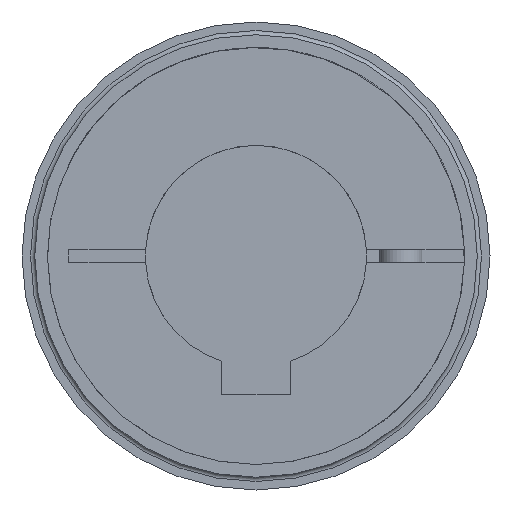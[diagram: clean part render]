
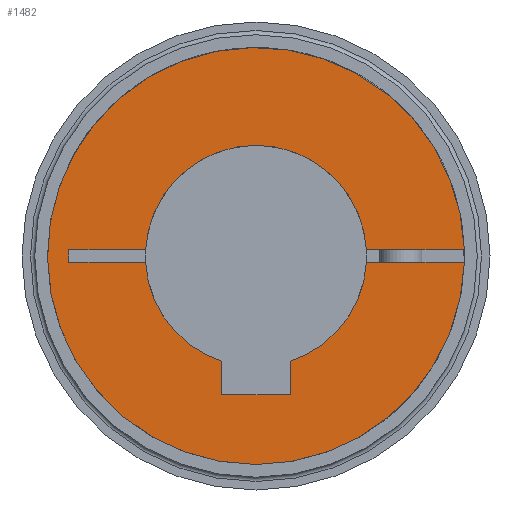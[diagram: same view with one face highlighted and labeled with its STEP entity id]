
A CAD part, left-side view. The second image highlights one B-rep face of the part: STEP entity #1482.
In plain terms, the highlighted planar face has unit normal (-1, 0, 0).
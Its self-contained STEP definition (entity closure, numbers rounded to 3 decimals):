
#24=PLANE('',#1695);
#141=LINE('',#2678,#244);
#144=LINE('',#2684,#247);
#145=LINE('',#2686,#248);
#156=LINE('',#2707,#259);
#157=LINE('',#2709,#260);
#158=LINE('',#2711,#261);
#159=LINE('',#2713,#262);
#160=LINE('',#2714,#263);
#244=VECTOR('',#2053,1.);
#247=VECTOR('',#2058,1.);
#248=VECTOR('',#2061,1.);
#259=VECTOR('',#2084,1.);
#260=VECTOR('',#2087,1.);
#261=VECTOR('',#2088,1.);
#262=VECTOR('',#2089,1.);
#263=VECTOR('',#2090,1.);
#375=FACE_OUTER_BOUND('',#470,.T.);
#470=EDGE_LOOP('',(#1224,#1225,#1226,#1227,#1228,#1229,#1230,#1231,#1232,
#1233,#1234,#1235,#1236));
#604=CIRCLE('',#1630,24.5);
#607=CIRCLE('',#1633,24.5);
#638=CIRCLE('',#1679,13.);
#641=CIRCLE('',#1683,13.);
#643=CIRCLE('',#1685,13.);
#697=VERTEX_POINT('',#2374);
#698=VERTEX_POINT('',#2376);
#703=VERTEX_POINT('',#2386);
#744=VERTEX_POINT('',#2648);
#745=VERTEX_POINT('',#2649);
#750=VERTEX_POINT('',#2660);
#751=VERTEX_POINT('',#2662);
#754=VERTEX_POINT('',#2668);
#755=VERTEX_POINT('',#2670);
#757=VERTEX_POINT('',#2676);
#759=VERTEX_POINT('',#2682);
#764=VERTEX_POINT('',#2710);
#765=VERTEX_POINT('',#2712);
#862=EDGE_CURVE('',#697,#698,#604,.T.);
#868=EDGE_CURVE('',#703,#697,#607,.T.);
#921=EDGE_CURVE('',#744,#745,#638,.T.);
#927=EDGE_CURVE('',#751,#750,#641,.T.);
#931=EDGE_CURVE('',#755,#754,#643,.T.);
#935=EDGE_CURVE('',#754,#757,#141,.T.);
#938=EDGE_CURVE('',#757,#759,#144,.T.);
#939=EDGE_CURVE('',#759,#751,#145,.T.);
#950=EDGE_CURVE('',#745,#698,#156,.T.);
#951=EDGE_CURVE('',#703,#755,#157,.T.);
#952=EDGE_CURVE('',#750,#764,#158,.T.);
#953=EDGE_CURVE('',#764,#765,#159,.T.);
#954=EDGE_CURVE('',#765,#744,#160,.T.);
#1224=ORIENTED_EDGE('',*,*,#921,.T.);
#1225=ORIENTED_EDGE('',*,*,#950,.T.);
#1226=ORIENTED_EDGE('',*,*,#862,.F.);
#1227=ORIENTED_EDGE('',*,*,#868,.F.);
#1228=ORIENTED_EDGE('',*,*,#951,.T.);
#1229=ORIENTED_EDGE('',*,*,#931,.T.);
#1230=ORIENTED_EDGE('',*,*,#935,.T.);
#1231=ORIENTED_EDGE('',*,*,#938,.T.);
#1232=ORIENTED_EDGE('',*,*,#939,.T.);
#1233=ORIENTED_EDGE('',*,*,#927,.T.);
#1234=ORIENTED_EDGE('',*,*,#952,.T.);
#1235=ORIENTED_EDGE('',*,*,#953,.T.);
#1236=ORIENTED_EDGE('',*,*,#954,.T.);
#1482=ADVANCED_FACE('',(#375),#24,.T.);
#1630=AXIS2_PLACEMENT_3D('',#2377,#1912,#1913);
#1633=AXIS2_PLACEMENT_3D('',#2388,#1921,#1922);
#1679=AXIS2_PLACEMENT_3D('',#2650,#2029,#2030);
#1683=AXIS2_PLACEMENT_3D('',#2663,#2040,#2041);
#1685=AXIS2_PLACEMENT_3D('',#2671,#2046,#2047);
#1695=AXIS2_PLACEMENT_3D('',#2708,#2085,#2086);
#1912=DIRECTION('center_axis',(1.,0.,0.));
#1913=DIRECTION('ref_axis',(0.,0.,1.));
#1921=DIRECTION('center_axis',(1.,0.,0.));
#1922=DIRECTION('ref_axis',(0.,0.,1.));
#2029=DIRECTION('center_axis',(1.,0.,0.));
#2030=DIRECTION('ref_axis',(0.,0.,-1.));
#2040=DIRECTION('center_axis',(1.,0.,0.));
#2041=DIRECTION('ref_axis',(0.,0.,-1.));
#2046=DIRECTION('center_axis',(1.,0.,0.));
#2047=DIRECTION('ref_axis',(0.,0.,-1.));
#2053=DIRECTION('',(0.,0.,-1.));
#2058=DIRECTION('',(0.,1.,0.));
#2061=DIRECTION('',(0.,0.,1.));
#2084=DIRECTION('',(0.,-1.,0.));
#2085=DIRECTION('center_axis',(-1.,0.,0.));
#2086=DIRECTION('ref_axis',(0.,0.,-1.));
#2087=DIRECTION('',(0.,1.,0.));
#2088=DIRECTION('',(0.,1.,0.));
#2089=DIRECTION('',(0.,0.,1.));
#2090=DIRECTION('',(0.,-1.,0.));
#2374=CARTESIAN_POINT('',(0.,0.,-24.5));
#2376=CARTESIAN_POINT('',(0.,-24.489,0.75));
#2377=CARTESIAN_POINT('Origin',(0.,0.,0.));
#2386=CARTESIAN_POINT('',(0.,-24.489,-0.75));
#2388=CARTESIAN_POINT('Origin',(0.,0.,0.));
#2648=CARTESIAN_POINT('',(0.,12.978,0.75));
#2649=CARTESIAN_POINT('',(0.,-12.978,0.75));
#2650=CARTESIAN_POINT('Origin',(0.,0.,0.));
#2660=CARTESIAN_POINT('',(0.,12.978,-0.75));
#2662=CARTESIAN_POINT('',(0.,4.,-12.369));
#2663=CARTESIAN_POINT('Origin',(0.,0.,0.));
#2668=CARTESIAN_POINT('',(0.,-4.,-12.369));
#2670=CARTESIAN_POINT('',(0.,-12.978,-0.75));
#2671=CARTESIAN_POINT('Origin',(0.,0.,0.));
#2676=CARTESIAN_POINT('',(0.,-4.,-16.3));
#2678=CARTESIAN_POINT('',(0.,-4.,2.05));
#2682=CARTESIAN_POINT('',(0.,4.,-16.3));
#2684=CARTESIAN_POINT('',(0.,0.,-16.3));
#2686=CARTESIAN_POINT('',(0.,4.,2.05));
#2707=CARTESIAN_POINT('',(0.,-0.875,0.75));
#2708=CARTESIAN_POINT('Origin',(0.,0.,12.25));
#2709=CARTESIAN_POINT('',(0.,-0.875,-0.75));
#2710=CARTESIAN_POINT('',(0.,22.,-0.75));
#2711=CARTESIAN_POINT('',(0.,-0.875,-0.75));
#2712=CARTESIAN_POINT('',(0.,22.,0.75));
#2713=CARTESIAN_POINT('',(0.,22.,6.125));
#2714=CARTESIAN_POINT('',(0.,-0.875,0.75));
